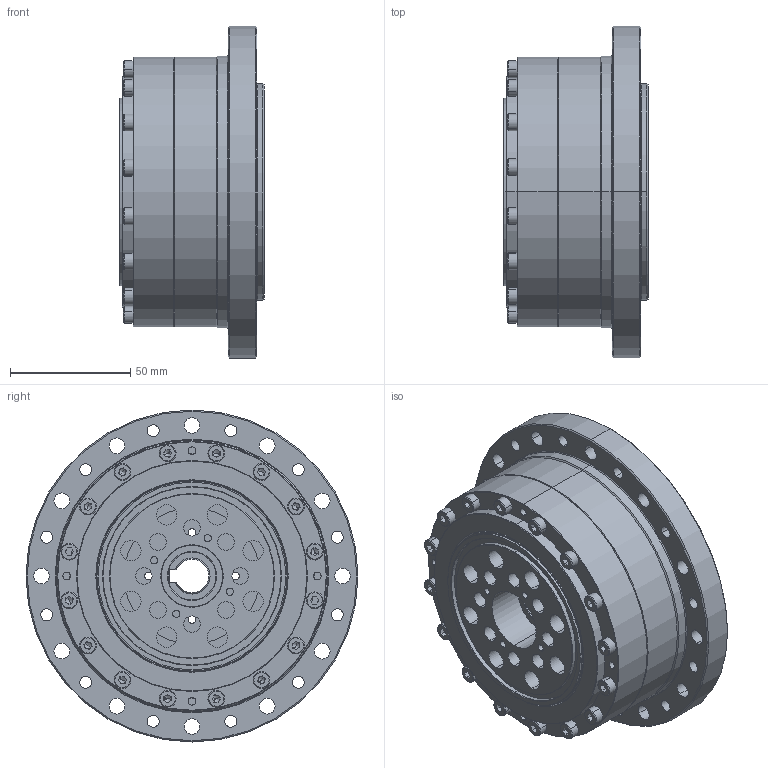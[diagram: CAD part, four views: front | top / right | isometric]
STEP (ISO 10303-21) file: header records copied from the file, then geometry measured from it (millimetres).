
FILE_DESCRIPTION (( 'STEP AP203' ), '1' );
FILE_NAME ('BCS-32-XXX-U-¢ñ.STEP', '2019-01-15T03:22:01', ( 'User' ), ( 'China' ), 'SwSTEP 2.0', 'SolidWorks 2015', '' );
FILE_SCHEMA (( 'CONFIG_CONTROL_DESIGN' ));
Length unit declared in the file: millimetre
Products named in the file (1): BCS-32-XXX-U-ｉ
Bounding box: 60 x 138 x 138 mm (x, y, z)
Surface area: 96478.1 mm2 (no closed solid volume)
Topology: 0 solids, 33 shells, 486 faces, 1552 edges, 1006 vertices
Faces by surface type: cylinder 181, plane 143, cone 97, sphere 40, torus 21, bspline 4
Entity records: 18529 total; most frequent: CARTESIAN_POINT 5217, DIRECTION 2908, ORIENTED_EDGE 2506, EDGE_CURVE 1424, AXIS2_PLACEMENT_3D 1148, VERTEX_POINT 946, CIRCLE 665, EDGE_LOOP 633
